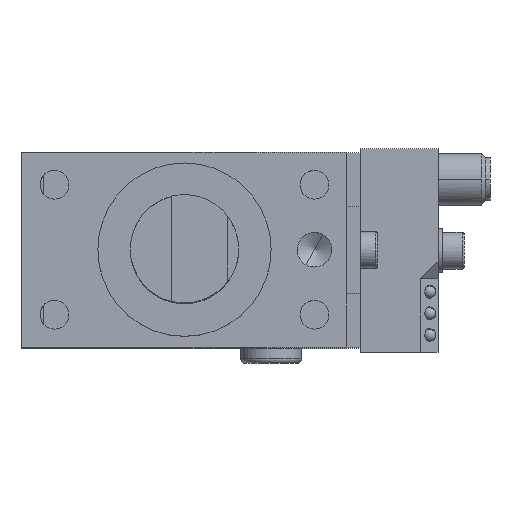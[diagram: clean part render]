
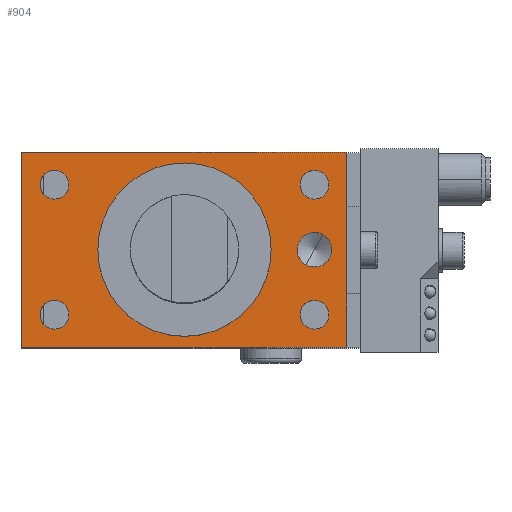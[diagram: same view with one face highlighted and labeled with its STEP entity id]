
A CAD part, top view. The second image highlights one B-rep face of the part: STEP entity #904.
In plain terms, the highlighted planar face has unit normal (0, 0, 1).
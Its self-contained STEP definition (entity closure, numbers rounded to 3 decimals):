
#607=AXIS2_PLACEMENT_3D('Circle Axis2P3D',#605,#606,$) ;
#633=AXIS2_PLACEMENT_3D('Circle Axis2P3D',#631,#632,$) ;
#774=AXIS2_PLACEMENT_3D('Plane Axis2P3D',#771,#772,#773) ;
#812=AXIS2_PLACEMENT_3D('Circle Axis2P3D',#810,#811,$) ;
#821=AXIS2_PLACEMENT_3D('Circle Axis2P3D',#819,#820,$) ;
#830=AXIS2_PLACEMENT_3D('Circle Axis2P3D',#828,#829,$) ;
#839=AXIS2_PLACEMENT_3D('Circle Axis2P3D',#837,#838,$) ;
#848=AXIS2_PLACEMENT_3D('Circle Axis2P3D',#846,#847,$) ;
#857=AXIS2_PLACEMENT_3D('Circle Axis2P3D',#855,#856,$) ;
#866=AXIS2_PLACEMENT_3D('Circle Axis2P3D',#864,#865,$) ;
#875=AXIS2_PLACEMENT_3D('Circle Axis2P3D',#873,#874,$) ;
#884=AXIS2_PLACEMENT_3D('Circle Axis2P3D',#882,#883,$) ;
#893=AXIS2_PLACEMENT_3D('Circle Axis2P3D',#891,#892,$) ;
#602=CARTESIAN_POINT('Vertex',(20.,0.,0.)) ;
#605=CARTESIAN_POINT('Axis2P3D Location',(0.,0.,0.)) ;
#609=CARTESIAN_POINT('Vertex',(-20.,0.,0.)) ;
#631=CARTESIAN_POINT('Axis2P3D Location',(0.,0.,0.)) ;
#771=CARTESIAN_POINT('Axis2P3D Location',(0.,0.,0.)) ;
#776=CARTESIAN_POINT('Line Origine',(37.5,0.,0.)) ;
#780=CARTESIAN_POINT('Vertex',(37.5,-22.5,0.)) ;
#782=CARTESIAN_POINT('Vertex',(37.5,22.5,0.)) ;
#785=CARTESIAN_POINT('Line Origine',(0.,22.5,0.)) ;
#789=CARTESIAN_POINT('Vertex',(-37.5,22.5,0.)) ;
#792=CARTESIAN_POINT('Line Origine',(-37.5,0.,0.)) ;
#796=CARTESIAN_POINT('Vertex',(-37.5,-22.5,0.)) ;
#799=CARTESIAN_POINT('Line Origine',(0.,-22.5,0.)) ;
#810=CARTESIAN_POINT('Axis2P3D Location',(30.,0.,0.)) ;
#814=CARTESIAN_POINT('Vertex',(28.082,-3.51,0.)) ;
#816=CARTESIAN_POINT('Vertex',(31.918,3.51,0.)) ;
#819=CARTESIAN_POINT('Axis2P3D Location',(30.,0.,0.)) ;
#828=CARTESIAN_POINT('Axis2P3D Location',(-30.,-15.,0.)) ;
#832=CARTESIAN_POINT('Vertex',(-31.593,-17.917,0.)) ;
#834=CARTESIAN_POINT('Vertex',(-28.407,-12.083,0.)) ;
#837=CARTESIAN_POINT('Axis2P3D Location',(-30.,-15.,0.)) ;
#846=CARTESIAN_POINT('Axis2P3D Location',(-30.,15.,0.)) ;
#850=CARTESIAN_POINT('Vertex',(-31.593,12.083,0.)) ;
#852=CARTESIAN_POINT('Vertex',(-28.407,17.917,0.)) ;
#855=CARTESIAN_POINT('Axis2P3D Location',(-30.,15.,0.)) ;
#864=CARTESIAN_POINT('Axis2P3D Location',(30.,15.,0.)) ;
#868=CARTESIAN_POINT('Vertex',(28.407,12.083,0.)) ;
#870=CARTESIAN_POINT('Vertex',(31.593,17.917,0.)) ;
#873=CARTESIAN_POINT('Axis2P3D Location',(30.,15.,0.)) ;
#882=CARTESIAN_POINT('Axis2P3D Location',(30.,-15.,0.)) ;
#886=CARTESIAN_POINT('Vertex',(28.407,-17.917,0.)) ;
#888=CARTESIAN_POINT('Vertex',(31.593,-12.083,0.)) ;
#891=CARTESIAN_POINT('Axis2P3D Location',(30.,-15.,0.)) ;
#606=DIRECTION('Axis2P3D Direction',(0.,0.,-1.)) ;
#632=DIRECTION('Axis2P3D Direction',(0.,0.,-1.)) ;
#772=DIRECTION('Axis2P3D Direction',(0.,0.,1.)) ;
#773=DIRECTION('Axis2P3D XDirection',(0.,1.,0.)) ;
#777=DIRECTION('Vector Direction',(0.,-1.,0.)) ;
#786=DIRECTION('Vector Direction',(1.,0.,0.)) ;
#793=DIRECTION('Vector Direction',(0.,1.,0.)) ;
#800=DIRECTION('Vector Direction',(-1.,0.,0.)) ;
#811=DIRECTION('Axis2P3D Direction',(0.,0.,1.)) ;
#820=DIRECTION('Axis2P3D Direction',(0.,0.,1.)) ;
#829=DIRECTION('Axis2P3D Direction',(0.,0.,1.)) ;
#838=DIRECTION('Axis2P3D Direction',(0.,0.,1.)) ;
#847=DIRECTION('Axis2P3D Direction',(0.,0.,1.)) ;
#856=DIRECTION('Axis2P3D Direction',(0.,0.,1.)) ;
#865=DIRECTION('Axis2P3D Direction',(0.,0.,1.)) ;
#874=DIRECTION('Axis2P3D Direction',(0.,0.,1.)) ;
#883=DIRECTION('Axis2P3D Direction',(0.,0.,1.)) ;
#892=DIRECTION('Axis2P3D Direction',(0.,0.,1.)) ;
#778=VECTOR('Line Direction',#777,1.) ;
#787=VECTOR('Line Direction',#786,1.) ;
#794=VECTOR('Line Direction',#793,1.) ;
#801=VECTOR('Line Direction',#800,1.) ;
#805=ORIENTED_EDGE('',*,*,#784,.T.) ;
#806=ORIENTED_EDGE('',*,*,#791,.T.) ;
#807=ORIENTED_EDGE('',*,*,#798,.T.) ;
#808=ORIENTED_EDGE('',*,*,#803,.T.) ;
#825=ORIENTED_EDGE('',*,*,#818,.F.) ;
#826=ORIENTED_EDGE('',*,*,#823,.F.) ;
#843=ORIENTED_EDGE('',*,*,#836,.F.) ;
#844=ORIENTED_EDGE('',*,*,#841,.F.) ;
#861=ORIENTED_EDGE('',*,*,#854,.F.) ;
#862=ORIENTED_EDGE('',*,*,#859,.F.) ;
#879=ORIENTED_EDGE('',*,*,#872,.F.) ;
#880=ORIENTED_EDGE('',*,*,#877,.F.) ;
#897=ORIENTED_EDGE('',*,*,#890,.F.) ;
#898=ORIENTED_EDGE('',*,*,#895,.F.) ;
#901=ORIENTED_EDGE('',*,*,#611,.T.) ;
#902=ORIENTED_EDGE('',*,*,#635,.T.) ;
#827=FACE_BOUND('',#824,.T.) ;
#845=FACE_BOUND('',#842,.T.) ;
#863=FACE_BOUND('',#860,.T.) ;
#881=FACE_BOUND('',#878,.T.) ;
#899=FACE_BOUND('',#896,.T.) ;
#903=FACE_BOUND('',#900,.T.) ;
#904=ADVANCED_FACE('SZK_40_1_BR3_A12_T12_TUENKERS',(#809,#827,#845,#863,#881,#899,#903),#775,.T.) ;
#608=CIRCLE('generated circle',#607,20.) ;
#634=CIRCLE('generated circle',#633,20.) ;
#813=CIRCLE('generated circle',#812,4.) ;
#822=CIRCLE('generated circle',#821,4.) ;
#831=CIRCLE('generated circle',#830,3.324) ;
#840=CIRCLE('generated circle',#839,3.324) ;
#849=CIRCLE('generated circle',#848,3.324) ;
#858=CIRCLE('generated circle',#857,3.324) ;
#867=CIRCLE('generated circle',#866,3.324) ;
#876=CIRCLE('generated circle',#875,3.324) ;
#885=CIRCLE('generated circle',#884,3.324) ;
#894=CIRCLE('generated circle',#893,3.324) ;
#611=EDGE_CURVE('',#610,#603,#608,.T.) ;
#635=EDGE_CURVE('',#603,#610,#634,.T.) ;
#784=EDGE_CURVE('',#781,#783,#779,.F.) ;
#791=EDGE_CURVE('',#783,#790,#788,.F.) ;
#798=EDGE_CURVE('',#790,#797,#795,.F.) ;
#803=EDGE_CURVE('',#797,#781,#802,.F.) ;
#818=EDGE_CURVE('',#815,#817,#813,.T.) ;
#823=EDGE_CURVE('',#817,#815,#822,.T.) ;
#836=EDGE_CURVE('',#833,#835,#831,.T.) ;
#841=EDGE_CURVE('',#835,#833,#840,.T.) ;
#854=EDGE_CURVE('',#851,#853,#849,.T.) ;
#859=EDGE_CURVE('',#853,#851,#858,.T.) ;
#872=EDGE_CURVE('',#869,#871,#867,.T.) ;
#877=EDGE_CURVE('',#871,#869,#876,.T.) ;
#890=EDGE_CURVE('',#887,#889,#885,.T.) ;
#895=EDGE_CURVE('',#889,#887,#894,.T.) ;
#804=EDGE_LOOP('',(#805,#806,#807,#808)) ;
#824=EDGE_LOOP('',(#825,#826)) ;
#842=EDGE_LOOP('',(#843,#844)) ;
#860=EDGE_LOOP('',(#861,#862)) ;
#878=EDGE_LOOP('',(#879,#880)) ;
#896=EDGE_LOOP('',(#897,#898)) ;
#900=EDGE_LOOP('',(#901,#902)) ;
#809=FACE_OUTER_BOUND('',#804,.T.) ;
#779=LINE('Line',#776,#778) ;
#788=LINE('Line',#785,#787) ;
#795=LINE('Line',#792,#794) ;
#802=LINE('Line',#799,#801) ;
#775=PLANE('Plane',#774) ;
#603=VERTEX_POINT('',#602) ;
#610=VERTEX_POINT('',#609) ;
#781=VERTEX_POINT('',#780) ;
#783=VERTEX_POINT('',#782) ;
#790=VERTEX_POINT('',#789) ;
#797=VERTEX_POINT('',#796) ;
#815=VERTEX_POINT('',#814) ;
#817=VERTEX_POINT('',#816) ;
#833=VERTEX_POINT('',#832) ;
#835=VERTEX_POINT('',#834) ;
#851=VERTEX_POINT('',#850) ;
#853=VERTEX_POINT('',#852) ;
#869=VERTEX_POINT('',#868) ;
#871=VERTEX_POINT('',#870) ;
#887=VERTEX_POINT('',#886) ;
#889=VERTEX_POINT('',#888) ;
